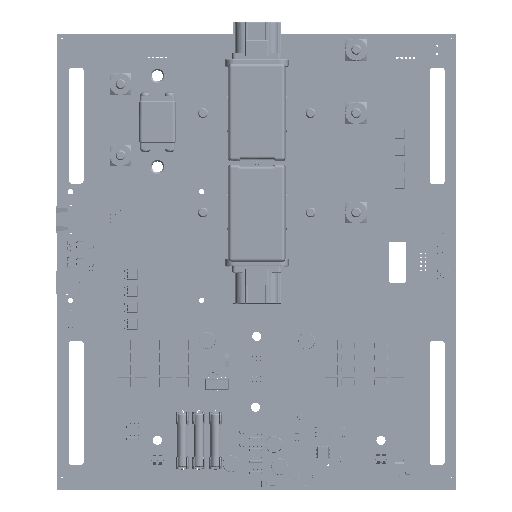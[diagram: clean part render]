
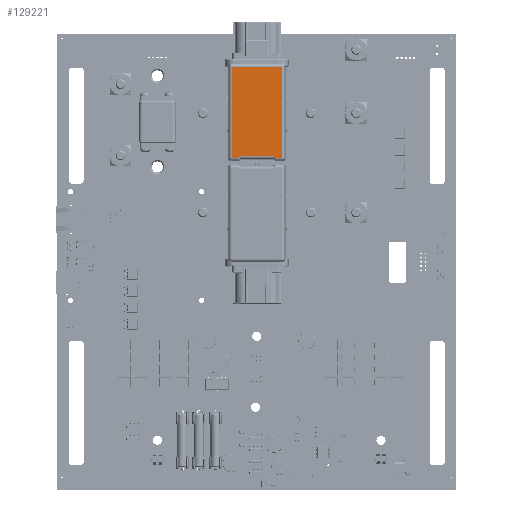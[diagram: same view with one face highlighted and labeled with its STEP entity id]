
A CAD part, top view. The second image highlights one B-rep face of the part: STEP entity #129221.
In plain terms, the highlighted planar face has unit normal (0, 0, 1) as drawn and (0, 1, 0) by its records, which use the part's own axes.
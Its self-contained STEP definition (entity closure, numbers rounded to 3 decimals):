
#128651 = VERTEX_POINT('',#128652);
#128652 = CARTESIAN_POINT('',(-15.186,23.,-26.964));
#128674 = EDGE_CURVE('',#128675,#128651,#128677,.T.);
#128675 = VERTEX_POINT('',#128676);
#128676 = CARTESIAN_POINT('',(-15.186,23.,-82.036));
#128677 = LINE('',#128678,#128679);
#128678 = CARTESIAN_POINT('',(-15.186,23.,-82.036));
#128679 = VECTOR('',#128680,1.);
#128680 = DIRECTION('',(0.,0.,1.));
#128734 = EDGE_CURVE('',#128735,#128675,#128737,.T.);
#128735 = VERTEX_POINT('',#128736);
#128736 = CARTESIAN_POINT('',(-11.279,23.,-82.036));
#128737 = LINE('',#128738,#128739);
#128738 = CARTESIAN_POINT('',(-11.279,23.,-82.036));
#128739 = VECTOR('',#128740,1.);
#128740 = DIRECTION('',(-1.,0.,0.));
#128969 = VERTEX_POINT('',#128970);
#128970 = CARTESIAN_POINT('',(11.279,23.,-82.036));
#129047 = EDGE_CURVE('',#129048,#128969,#129050,.T.);
#129048 = VERTEX_POINT('',#129049);
#129049 = CARTESIAN_POINT('',(15.186,23.,-82.036));
#129050 = LINE('',#129051,#129052);
#129051 = CARTESIAN_POINT('',(15.186,23.,-82.036));
#129052 = VECTOR('',#129053,1.);
#129053 = DIRECTION('',(-1.,0.,0.));
#129098 = EDGE_CURVE('',#129099,#129048,#129101,.T.);
#129099 = VERTEX_POINT('',#129100);
#129100 = CARTESIAN_POINT('',(15.186,23.,-26.964));
#129101 = LINE('',#129102,#129103);
#129102 = CARTESIAN_POINT('',(15.186,23.,-26.964));
#129103 = VECTOR('',#129104,1.);
#129104 = DIRECTION('',(0.,0.,-1.));
#129211 = EDGE_CURVE('',#129099,#128651,#129212,.T.);
#129212 = LINE('',#129213,#129214);
#129213 = CARTESIAN_POINT('',(15.186,23.,-26.964));
#129214 = VECTOR('',#129215,1.);
#129215 = DIRECTION('',(-1.,0.,0.));
#129221 = ADVANCED_FACE('',(#129222),#129261,.T.);
#129222 = FACE_BOUND('',#129223,.F.);
#129223 = EDGE_LOOP('',(#129224,#129237,#129238,#129239,#129240,#129241,
    #129242,#129255));
#129224 = ORIENTED_EDGE('',*,*,#129225,.F.);
#129225 = EDGE_CURVE('',#128969,#129226,#129228,.T.);
#129226 = VERTEX_POINT('',#129227);
#129227 = CARTESIAN_POINT('',(10.107,23.,-81.136));
#129228 = B_SPLINE_CURVE_WITH_KNOTS('',3,(#129229,#129230,#129231,
    #129232,#129233,#129234,#129235,#129236),.UNSPECIFIED.,.F.,.F.,(4,1,
    1,1,1,4),(0.,0.2,0.4,0.6,0.8,1.),.QUASI_UNIFORM_KNOTS.);
#129229 = CARTESIAN_POINT('',(11.279,23.,-82.036));
#129230 = CARTESIAN_POINT('',(11.225,23.,
    -81.947));
#129231 = CARTESIAN_POINT('',(11.104,23.,
    -81.782));
#129232 = CARTESIAN_POINT('',(10.875,23.,
    -81.567));
#129233 = CARTESIAN_POINT('',(10.628,23.,
    -81.397));
#129234 = CARTESIAN_POINT('',(10.376,23.,
    -81.261));
#129235 = CARTESIAN_POINT('',(10.197,22.999,
    -81.177));
#129236 = CARTESIAN_POINT('',(10.107,23.,-81.136));
#129237 = ORIENTED_EDGE('',*,*,#129047,.F.);
#129238 = ORIENTED_EDGE('',*,*,#129098,.F.);
#129239 = ORIENTED_EDGE('',*,*,#129211,.T.);
#129240 = ORIENTED_EDGE('',*,*,#128674,.F.);
#129241 = ORIENTED_EDGE('',*,*,#128734,.F.);
#129242 = ORIENTED_EDGE('',*,*,#129243,.F.);
#129243 = EDGE_CURVE('',#129244,#128735,#129246,.T.);
#129244 = VERTEX_POINT('',#129245);
#129245 = CARTESIAN_POINT('',(-10.107,23.,-81.136));
#129246 = B_SPLINE_CURVE_WITH_KNOTS('',3,(#129247,#129248,#129249,
    #129250,#129251,#129252,#129253,#129254),.UNSPECIFIED.,.F.,.F.,(4,1,
    1,1,1,4),(0.,0.2,0.4,0.6,0.8,1.),.QUASI_UNIFORM_KNOTS.);
#129247 = CARTESIAN_POINT('',(-10.107,23.,-81.136));
#129248 = CARTESIAN_POINT('',(-10.197,22.999,
    -81.177));
#129249 = CARTESIAN_POINT('',(-10.375,23.,
    -81.26));
#129250 = CARTESIAN_POINT('',(-10.627,23.,
    -81.397));
#129251 = CARTESIAN_POINT('',(-10.876,23.,
    -81.567));
#129252 = CARTESIAN_POINT('',(-11.104,23.,
    -81.782));
#129253 = CARTESIAN_POINT('',(-11.225,23.,
    -81.947));
#129254 = CARTESIAN_POINT('',(-11.279,23.,-82.036));
#129255 = ORIENTED_EDGE('',*,*,#129256,.F.);
#129256 = EDGE_CURVE('',#129226,#129244,#129257,.T.);
#129257 = LINE('',#129258,#129259);
#129258 = CARTESIAN_POINT('',(10.107,23.,-81.136));
#129259 = VECTOR('',#129260,1.);
#129260 = DIRECTION('',(-1.,0.,0.));
#129261 = PLANE('',#129262);
#129262 = AXIS2_PLACEMENT_3D('',#129263,#129264,#129265);
#129263 = CARTESIAN_POINT('',(-17.15,23.,-83.721));
#129264 = DIRECTION('',(0.,1.,0.));
#129265 = DIRECTION('',(0.,-0.,1.));
